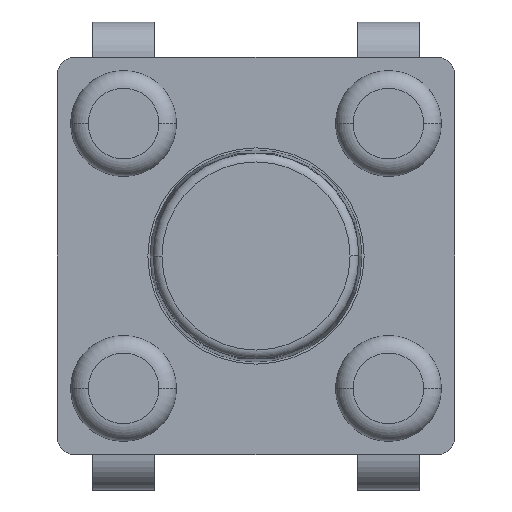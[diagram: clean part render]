
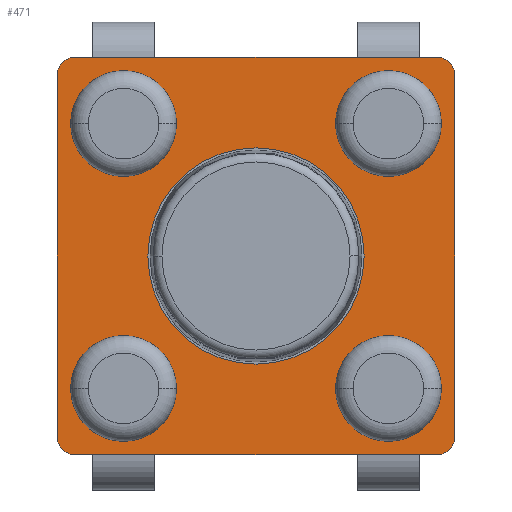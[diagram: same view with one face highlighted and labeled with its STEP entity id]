
A CAD part, front view. The second image highlights one B-rep face of the part: STEP entity #471.
In plain terms, the highlighted planar face has unit normal (0, -1, 0).
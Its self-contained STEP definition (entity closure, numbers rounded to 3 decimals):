
#116=CARTESIAN_POINT('',(-1.5,-0.2,-1.5));
#117=DIRECTION('',(0.,1.,0.));
#118=DIRECTION('',(-1.,0.,0.));
#119=AXIS2_PLACEMENT_3D('',#116,#117,#118);
#121=CARTESIAN_POINT('',(-1.5,-0.2,-1.5));
#122=DIRECTION('',(0.,1.,0.));
#123=DIRECTION('',(1.,0.,0.));
#124=AXIS2_PLACEMENT_3D('',#121,#122,#123);
#126=CARTESIAN_POINT('',(1.5,-0.2,-1.5));
#127=DIRECTION('',(0.,1.,0.));
#128=DIRECTION('',(-1.,0.,0.));
#129=AXIS2_PLACEMENT_3D('',#126,#127,#128);
#131=CARTESIAN_POINT('',(1.5,-0.2,-1.5));
#132=DIRECTION('',(0.,1.,0.));
#133=DIRECTION('',(1.,0.,0.));
#134=AXIS2_PLACEMENT_3D('',#131,#132,#133);
#136=CARTESIAN_POINT('',(1.5,-0.2,1.5));
#137=DIRECTION('',(0.,1.,0.));
#138=DIRECTION('',(-1.,0.,0.));
#139=AXIS2_PLACEMENT_3D('',#136,#137,#138);
#141=CARTESIAN_POINT('',(1.5,-0.2,1.5));
#142=DIRECTION('',(0.,1.,0.));
#143=DIRECTION('',(1.,0.,0.));
#144=AXIS2_PLACEMENT_3D('',#141,#142,#143);
#146=CARTESIAN_POINT('',(-1.5,-0.2,1.5));
#147=DIRECTION('',(0.,1.,0.));
#148=DIRECTION('',(-1.,0.,0.));
#149=AXIS2_PLACEMENT_3D('',#146,#147,#148);
#151=CARTESIAN_POINT('',(-1.5,-0.2,1.5));
#152=DIRECTION('',(0.,1.,0.));
#153=DIRECTION('',(1.,0.,0.));
#154=AXIS2_PLACEMENT_3D('',#151,#152,#153);
#156=CARTESIAN_POINT('',(0.,-0.2,0.));
#157=DIRECTION('',(0.,1.,0.));
#158=DIRECTION('',(-1.,0.,0.));
#159=AXIS2_PLACEMENT_3D('',#156,#157,#158);
#161=CARTESIAN_POINT('',(0.,-0.2,0.));
#162=DIRECTION('',(0.,1.,0.));
#163=DIRECTION('',(1.,0.,0.));
#164=AXIS2_PLACEMENT_3D('',#161,#162,#163);
#166=CARTESIAN_POINT('',(-2.05,-0.2,-2.05));
#167=DIRECTION('',(0.,-1.,0.));
#168=DIRECTION('',(-1.,0.,0.));
#169=AXIS2_PLACEMENT_3D('',#166,#167,#168);
#171=DIRECTION('',(0.,0.,-1.));
#172=VECTOR('',#171,4.1);
#173=CARTESIAN_POINT('',(-2.25,-0.2,2.05));
#174=LINE('',#173,#172);
#175=CARTESIAN_POINT('',(-2.05,-0.2,2.05));
#176=DIRECTION('',(0.,-1.,0.));
#177=DIRECTION('',(0.,0.,1.));
#178=AXIS2_PLACEMENT_3D('',#175,#176,#177);
#180=DIRECTION('',(-1.,0.,0.));
#181=VECTOR('',#180,4.1);
#182=CARTESIAN_POINT('',(2.05,-0.2,2.25));
#183=LINE('',#182,#181);
#184=CARTESIAN_POINT('',(2.05,-0.2,2.05));
#185=DIRECTION('',(0.,-1.,0.));
#186=DIRECTION('',(1.,0.,0.));
#187=AXIS2_PLACEMENT_3D('',#184,#185,#186);
#189=DIRECTION('',(0.,0.,1.));
#190=VECTOR('',#189,4.1);
#191=CARTESIAN_POINT('',(2.25,-0.2,-2.05));
#192=LINE('',#191,#190);
#193=CARTESIAN_POINT('',(2.05,-0.2,-2.05));
#194=DIRECTION('',(0.,-1.,0.));
#195=DIRECTION('',(0.,0.,-1.));
#196=AXIS2_PLACEMENT_3D('',#193,#194,#195);
#198=DIRECTION('',(1.,0.,0.));
#199=VECTOR('',#198,4.1);
#200=CARTESIAN_POINT('',(-2.05,-0.2,-2.25));
#201=LINE('',#200,#199);
#282=CARTESIAN_POINT('',(-1.9,-0.2,-1.5));
#283=CARTESIAN_POINT('',(-1.1,-0.2,-1.5));
#284=VERTEX_POINT('',#282);
#285=VERTEX_POINT('',#283);
#286=CARTESIAN_POINT('',(1.1,-0.2,-1.5));
#287=CARTESIAN_POINT('',(1.9,-0.2,-1.5));
#288=VERTEX_POINT('',#286);
#289=VERTEX_POINT('',#287);
#290=CARTESIAN_POINT('',(1.1,-0.2,1.5));
#291=CARTESIAN_POINT('',(1.9,-0.2,1.5));
#292=VERTEX_POINT('',#290);
#293=VERTEX_POINT('',#291);
#294=CARTESIAN_POINT('',(-1.9,-0.2,1.5));
#295=CARTESIAN_POINT('',(-1.1,-0.2,1.5));
#296=VERTEX_POINT('',#294);
#297=VERTEX_POINT('',#295);
#302=CARTESIAN_POINT('',(-1.225,-0.2,0.));
#303=CARTESIAN_POINT('',(1.225,-0.2,0.));
#304=VERTEX_POINT('',#302);
#305=VERTEX_POINT('',#303);
#310=CARTESIAN_POINT('',(-2.25,-0.2,-2.05));
#311=VERTEX_POINT('',#310);
#312=CARTESIAN_POINT('',(-2.05,-0.2,-2.25));
#313=VERTEX_POINT('',#312);
#318=CARTESIAN_POINT('',(-2.05,-0.2,2.25));
#319=VERTEX_POINT('',#318);
#320=CARTESIAN_POINT('',(-2.25,-0.2,2.05));
#321=VERTEX_POINT('',#320);
#326=CARTESIAN_POINT('',(2.25,-0.2,2.05));
#327=VERTEX_POINT('',#326);
#328=CARTESIAN_POINT('',(2.05,-0.2,2.25));
#329=VERTEX_POINT('',#328);
#334=CARTESIAN_POINT('',(2.05,-0.2,-2.25));
#335=VERTEX_POINT('',#334);
#336=CARTESIAN_POINT('',(2.25,-0.2,-2.05));
#337=VERTEX_POINT('',#336);
#420=CARTESIAN_POINT('',(0.,-0.2,0.));
#421=DIRECTION('',(0.,1.,0.));
#422=DIRECTION('',(1.,0.,0.));
#423=AXIS2_PLACEMENT_3D('',#420,#421,#422);
#424=PLANE('',#423);
#426=ORIENTED_EDGE('',*,*,#425,.F.);
#428=ORIENTED_EDGE('',*,*,#427,.F.);
#430=ORIENTED_EDGE('',*,*,#429,.F.);
#432=ORIENTED_EDGE('',*,*,#431,.F.);
#434=ORIENTED_EDGE('',*,*,#433,.F.);
#436=ORIENTED_EDGE('',*,*,#435,.F.);
#438=ORIENTED_EDGE('',*,*,#437,.F.);
#440=ORIENTED_EDGE('',*,*,#439,.F.);
#441=EDGE_LOOP('',(#426,#428,#430,#432,#434,#436,#438,#440));
#442=FACE_OUTER_BOUND('',#441,.F.);
#444=ORIENTED_EDGE('',*,*,#443,.F.);
#446=ORIENTED_EDGE('',*,*,#445,.F.);
#447=EDGE_LOOP('',(#444,#446));
#448=FACE_BOUND('',#447,.F.);
#450=ORIENTED_EDGE('',*,*,#449,.F.);
#452=ORIENTED_EDGE('',*,*,#451,.F.);
#453=EDGE_LOOP('',(#450,#452));
#454=FACE_BOUND('',#453,.F.);
#456=ORIENTED_EDGE('',*,*,#455,.F.);
#458=ORIENTED_EDGE('',*,*,#457,.F.);
#459=EDGE_LOOP('',(#456,#458));
#460=FACE_BOUND('',#459,.F.);
#462=ORIENTED_EDGE('',*,*,#461,.F.);
#464=ORIENTED_EDGE('',*,*,#463,.F.);
#465=EDGE_LOOP('',(#462,#464));
#466=FACE_BOUND('',#465,.F.);
#467=ORIENTED_EDGE('',*,*,#400,.F.);
#468=ORIENTED_EDGE('',*,*,#414,.F.);
#469=EDGE_LOOP('',(#467,#468));
#470=FACE_BOUND('',#469,.F.);
#120=CIRCLE('',#119,0.4);
#125=CIRCLE('',#124,0.4);
#130=CIRCLE('',#129,0.4);
#135=CIRCLE('',#134,0.4);
#140=CIRCLE('',#139,0.4);
#145=CIRCLE('',#144,0.4);
#150=CIRCLE('',#149,0.4);
#155=CIRCLE('',#154,0.4);
#160=CIRCLE('',#159,1.225);
#165=CIRCLE('',#164,1.225);
#170=CIRCLE('',#169,0.2);
#179=CIRCLE('',#178,0.2);
#188=CIRCLE('',#187,0.2);
#197=CIRCLE('',#196,0.2);
#400=EDGE_CURVE('',#284,#285,#120,.T.);
#414=EDGE_CURVE('',#285,#284,#125,.T.);
#425=EDGE_CURVE('',#311,#313,#170,.T.);
#427=EDGE_CURVE('',#321,#311,#174,.T.);
#429=EDGE_CURVE('',#319,#321,#179,.T.);
#431=EDGE_CURVE('',#329,#319,#183,.T.);
#433=EDGE_CURVE('',#327,#329,#188,.T.);
#435=EDGE_CURVE('',#337,#327,#192,.T.);
#437=EDGE_CURVE('',#335,#337,#197,.T.);
#439=EDGE_CURVE('',#313,#335,#201,.T.);
#443=EDGE_CURVE('',#288,#289,#130,.T.);
#445=EDGE_CURVE('',#289,#288,#135,.T.);
#449=EDGE_CURVE('',#292,#293,#140,.T.);
#451=EDGE_CURVE('',#293,#292,#145,.T.);
#455=EDGE_CURVE('',#296,#297,#150,.T.);
#457=EDGE_CURVE('',#297,#296,#155,.T.);
#461=EDGE_CURVE('',#304,#305,#160,.T.);
#463=EDGE_CURVE('',#305,#304,#165,.T.);
#471=ADVANCED_FACE('',(#442,#448,#454,#460,#466,#470),#424,.F.);
